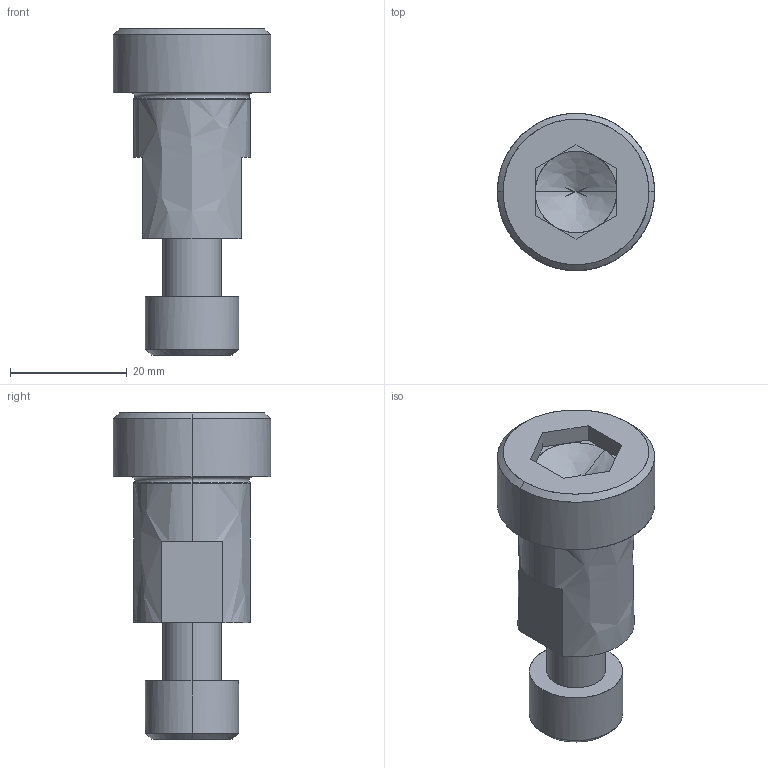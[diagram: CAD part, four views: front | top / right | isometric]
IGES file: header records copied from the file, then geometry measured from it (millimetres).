
Global section: file name: E:\UnigraphicsGraphicData\MISUMI_PRESS-PARTS\IGES\3d_sbt20-25_05066_r00.igs; native system: NX V5.0; preprocessor: UGS NX IGES V5.0; author: MISUMI; date: 20110105.162439; units: millimetre
Bounding box: 27 x 27 x 56 mm (x, y, z)
Surface area: 6379.1 mm2 (no closed solid volume)
Topology: 0 solids, 0 shells, 56 faces, 318 edges, 314 vertices
Faces by surface type: bspline 56
